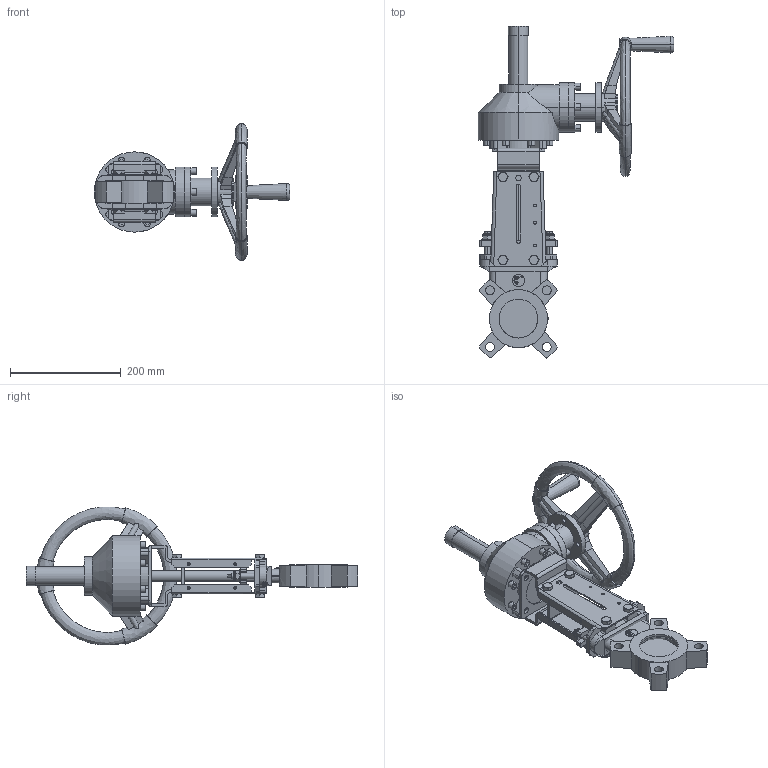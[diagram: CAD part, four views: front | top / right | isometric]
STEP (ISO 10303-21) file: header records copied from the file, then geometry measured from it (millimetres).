
FILE_DESCRIPTION (( 'STEP AP203' ), '1' );
FILE_NAME ('VG G DN65.STEP', '2010-04-22T09:16:20', ( 'farex' ), ( '' ), 'SwSTEP 2.0', 'SolidWorks 2009', '' );
FILE_SCHEMA (( 'CONFIG_CONTROL_DESIGN' ));
Length unit declared in the file: millimetre
Products named in the file (1): VG G DN65
Bounding box: 353 x 599.47 x 249.05 mm (x, y, z)
Volume: 3342912 mm3; surface area: 496959.7 mm2
Topology: 5 solids, 5 shells, 988 faces, 2562 edges, 1663 vertices
Faces by surface type: plane 449, cylinder 283, cone 129, bspline 119, torus 8
Entity records: 39279 total; most frequent: CARTESIAN_POINT 15839, ORIENTED_EDGE 5124, DIRECTION 4444, EDGE_CURVE 2562, VERTEX_POINT 1663, AXIS2_PLACEMENT_3D 1606, VECTOR 1232, LINE 1232
